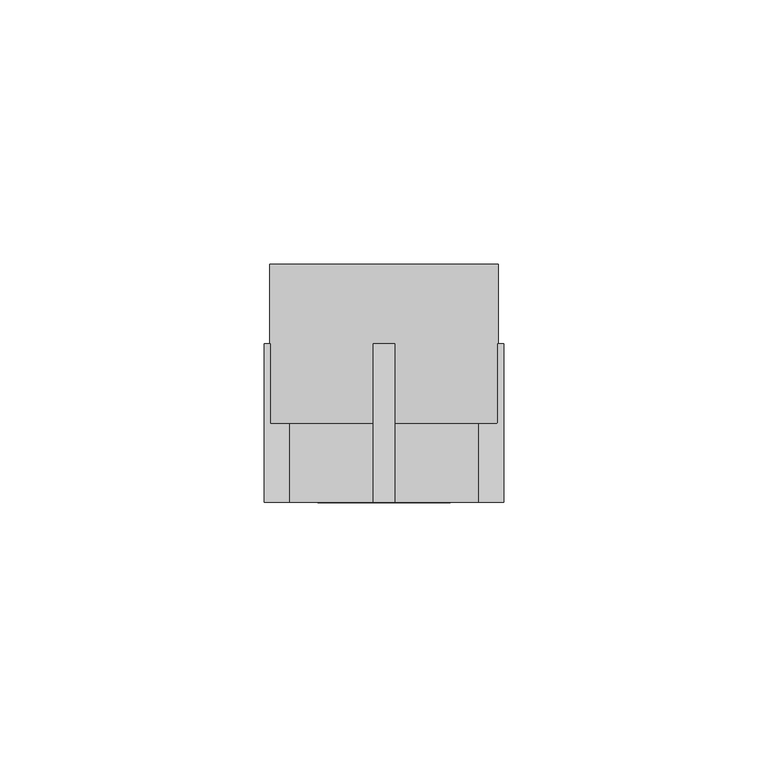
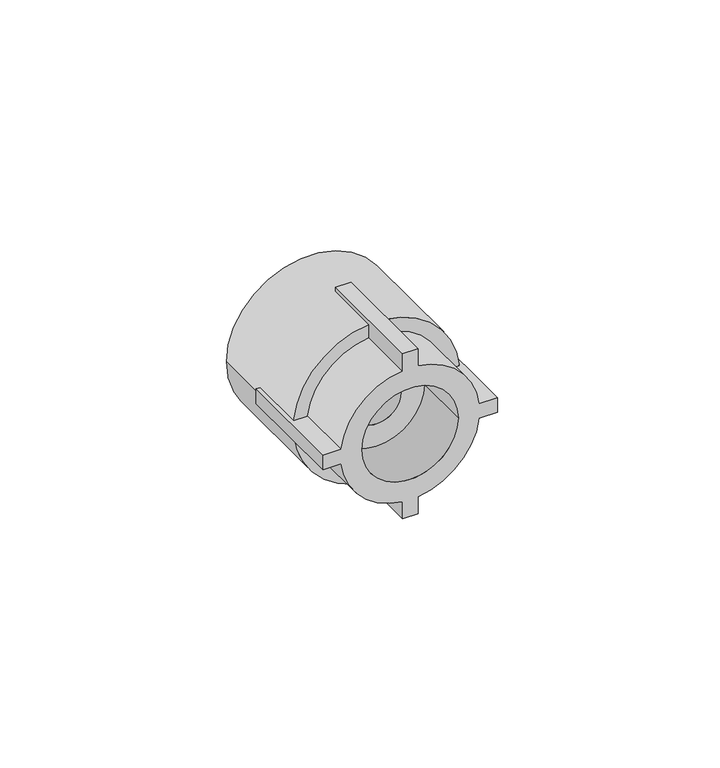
"""IFC4 building model written with IfcOpenShell, lengths in millimetres: pipe fitting geometry, EGB_VASEN_ PPR_Entronque rosca hembra WXR102 : Entronque rosca hembra WXR102."""

from ifc_helpers import new_model, si_unit, point, frame, origin, origin_2d, place, context, project, spatial, polyline, circle_curve, trimmed, segment, composite_curve, outline, extrude, source, transform, mapped, element, save
from ifc_brep_helpers import plane_surface, cylinder_surface, revolved_surface, advanced_brep


def pipe_fitting_ec726afd(model_context):
    return source(origin(), model_context, "Body", "SolidModel", [
        advanced_brep(
        [(2.0, -15.0, 22.6), (-2.0, -15.0, 22.6), (-2.0, -15.0, 17.8885438), (-17.8885438, -15.0, 2.0), (-22.6, -15.0, 2.0), (-22.6, -15.0, -2.0), (-17.8885438, -15.0, -2.0), (-2.0, -15.0, -17.8885438), (-2.0, -15.0, -22.6), (2.0, -15.0, -22.6), (2.0, -15.0, -17.8885438), (17.8885438, -15.0, -2.0), (22.6, -15.0, -2.0), (22.6, -15.0, 2.0), (17.8885438, -15.0, 2.0), (2.0, -15.0, 17.8885438), (-12.5, -15.0, 0.0), (12.5, -15.0, 0.0), (-2.0, 15.0, 22.6), (2.0, 15.0, 22.6), (2.0, 15.0, 21.5072081), (-2.0, 15.0, 21.5072081), (2.0, 15.0, -22.6), (-2.0, 15.0, -22.6), (-2.0, 15.0, -21.5072081), (2.0, 15.0, -21.5072081), (22.6, 15.0, 2.0), (22.6, 15.0, -2.0), (21.5072081, 15.0, -2.0), (21.6, 15.0, 0.0), (21.5072081, 15.0, 2.0), (-22.6, 15.0, -2.0), (-22.6, 15.0, 2.0), (-21.5072081, 15.0, 2.0), (-21.6, 15.0, 0.0), (-21.5072081, 15.0, -2.0), (2.0, 0.0, 17.8885438), (2.0, 0.0, 21.5072081), (-2.0, 0.0, 21.5072081), (-2.0, 0.0, 17.8885438), (2.0, 0.0, -21.5072081), (2.0, 0.0, -17.8885438), (-2.0, 0.0, -17.8885438), (-2.0, 0.0, -21.5072081), (17.8885438, 0.0, -2.0), (21.5072081, 0.0, -2.0), (21.5072081, 0.0, 2.0), (17.8885438, 0.0, 2.0), (-21.5072081, 0.0, -2.0), (-17.8885438, 0.0, -2.0), (-17.8885438, 0.0, 2.0), (-21.5072081, 0.0, 2.0), (-12.5, 0.0, 0.0), (12.5, 0.0, 0.0), (-6.35, 0.0, 0.0), (6.35, 0.0, 0.0), (-21.6, 30.0, 0.0), (21.6, 30.0, 0.0), (-6.35, 30.0, 0.0), (6.35, 30.0, 0.0)],
        [
            (0, 1),
            (1, 2),
            (2, 3, circle_curve(frame((0.0, -15.0, 0.0), z_axis=(0.0, -1.0, 0.0), x_axis=(1.0, 0.0, 0.0)), 18.0)),
            (3, 4),
            (4, 5),
            (5, 6),
            (6, 7, circle_curve(frame((0.0, -15.0, 0.0), z_axis=(0.0, -1.0, 0.0), x_axis=(1.0, 0.0, 0.0)), 18.0)),
            (7, 8),
            (8, 9),
            (9, 10),
            (10, 11, circle_curve(frame((0.0, -15.0, 0.0), z_axis=(0.0, -1.0, 0.0), x_axis=(1.0, 0.0, 0.0)), 18.0)),
            (11, 12),
            (12, 13),
            (13, 14),
            (14, 15, circle_curve(frame((0.0, -15.0, 0.0), z_axis=(0.0, -1.0, 0.0), x_axis=(1.0, 0.0, 0.0)), 18.0)),
            (15, 0),
            (16, 17, circle_curve(frame((0.0, -15.0, 0.0), z_axis=(0.0, 1.0, 0.0), x_axis=(1.0, 0.0, 0.0)), 12.5)),
            (17, 16, circle_curve(frame((0.0, -15.0, 0.0), z_axis=(0.0, 1.0, 0.0), x_axis=(1.0, 0.0, 0.0)), 12.5)),
            (18, 19),
            (19, 20),
            (20, 21, circle_curve(frame((0.0, 15.0, 0.0), z_axis=(0.0, -1.0, 0.0), x_axis=(1.0, 0.0, 0.0)), 21.6)),
            (21, 18),
            (22, 23),
            (23, 24),
            (24, 25, circle_curve(frame((0.0, 15.0, 0.0), z_axis=(0.0, -1.0, 0.0), x_axis=(1.0, 0.0, 0.0)), 21.6)),
            (25, 22),
            (26, 27),
            (27, 28),
            (28, 29, circle_curve(frame((0.0, 15.0, 0.0), z_axis=(0.0, -1.0, 0.0), x_axis=(1.0, 0.0, 0.0)), 21.6)),
            (29, 30, circle_curve(frame((0.0, 15.0, 0.0), z_axis=(0.0, -1.0, 0.0), x_axis=(1.0, 0.0, 0.0)), 21.6)),
            (30, 26),
            (31, 32),
            (32, 33),
            (33, 34, circle_curve(frame((0.0, 15.0, 0.0), z_axis=(0.0, -1.0, 0.0), x_axis=(1.0, 0.0, 0.0)), 21.6)),
            (34, 35, circle_curve(frame((0.0, 15.0, 0.0), z_axis=(0.0, -1.0, 0.0), x_axis=(1.0, 0.0, 0.0)), 21.6)),
            (35, 31),
            (19, 0),
            (15, 36),
            (36, 37),
            (37, 20),
            (18, 1),
            (21, 38),
            (38, 39),
            (39, 2),
            (8, 23),
            (22, 9),
            (25, 40),
            (40, 41),
            (41, 10),
            (7, 42),
            (42, 43),
            (43, 24),
            (27, 12),
            (11, 44),
            (44, 45),
            (45, 28),
            (26, 13),
            (30, 46),
            (46, 47),
            (47, 14),
            (5, 31),
            (35, 48),
            (48, 49),
            (49, 6),
            (32, 4),
            (3, 50),
            (50, 51),
            (51, 33),
            (49, 42, circle_curve(frame((0.0, 0.0, 0.0), z_axis=(0.0, -1.0, 0.0), x_axis=(1.0, 0.0, 0.0)), 18.0)),
            (41, 44, circle_curve(frame((0.0, 0.0, 0.0), z_axis=(0.0, -1.0, 0.0), x_axis=(1.0, 0.0, 0.0)), 18.0)),
            (39, 50, circle_curve(frame((0.0, 0.0, 0.0), z_axis=(0.0, -1.0, 0.0), x_axis=(1.0, 0.0, 0.0)), 18.0)),
            (47, 36, circle_curve(frame((0.0, 0.0, 0.0), z_axis=(0.0, -1.0, 0.0), x_axis=(1.0, 0.0, 0.0)), 18.0)),
            (16, 52),
            (52, 53, circle_curve(frame((0.0, 0.0, 0.0), z_axis=(0.0, 1.0, 0.0), x_axis=(1.0, 0.0, 0.0)), 12.5)),
            (53, 17),
            (53, 52, circle_curve(frame((0.0, 0.0, 0.0), z_axis=(0.0, 1.0, 0.0), x_axis=(1.0, 0.0, 0.0)), 12.5)),
            (54, 55, circle_curve(frame((0.0, 0.0, 0.0), z_axis=(0.0, 1.0, 0.0), x_axis=(1.0, 0.0, 0.0)), 6.35)),
            (55, 54, circle_curve(frame((0.0, 0.0, 0.0), z_axis=(0.0, 1.0, 0.0), x_axis=(1.0, 0.0, 0.0)), 6.35)),
            (40, 45, circle_curve(frame((0.0, 0.0, 0.0), z_axis=(0.0, -1.0, 0.0), x_axis=(1.0, 0.0, 0.0)), 21.6)),
            (48, 43, circle_curve(frame((0.0, 0.0, 0.0), z_axis=(0.0, -1.0, 0.0), x_axis=(1.0, 0.0, 0.0)), 21.6)),
            (46, 37, circle_curve(frame((0.0, 0.0, 0.0), z_axis=(0.0, -1.0, 0.0), x_axis=(1.0, 0.0, 0.0)), 21.6)),
            (38, 51, circle_curve(frame((0.0, 0.0, 0.0), z_axis=(0.0, -1.0, 0.0), x_axis=(1.0, 0.0, 0.0)), 21.6)),
            (56, 57, circle_curve(frame((0.0, 30.0, 0.0), z_axis=(0.0, 1.0, 0.0), x_axis=(1.0, 0.0, 0.0)), 21.6)),
            (57, 56, circle_curve(frame((0.0, 30.0, 0.0), z_axis=(0.0, 1.0, 0.0), x_axis=(1.0, 0.0, 0.0)), 21.6)),
            (58, 59, circle_curve(frame((0.0, 30.0, 0.0), z_axis=(0.0, -1.0, 0.0), x_axis=(1.0, 0.0, 0.0)), 6.35)),
            (59, 58, circle_curve(frame((0.0, 30.0, 0.0), z_axis=(0.0, -1.0, 0.0), x_axis=(1.0, 0.0, 0.0)), 6.35)),
            (57, 29),
            (34, 56),
            (54, 58),
            (59, 55),
        ],
        [
            plane_surface(frame((0.0, -15.0, 0.0), z_axis=(0.0, -1.0, 0.0), x_axis=(0.0, 0.0, 1.0))),
            plane_surface(frame((0.0, 15.0, 0.0), z_axis=(0.0, 1.0, 0.0), x_axis=(0.0, 0.0, 1.0))),
            plane_surface(frame((2.0, -15.0, 17.0), z_axis=(1.0, 0.0, 0.0), x_axis=(0.0, 1.0, 0.0))),
            plane_surface(frame((2.0, -15.0, 22.6), z_axis=(0.0, 0.0, 1.0), x_axis=(0.0, 1.0, 0.0))),
            plane_surface(frame((-2.0, -15.0, 22.6), z_axis=(-1.0, 0.0, 0.0), x_axis=(0.0, 1.0, 0.0))),
            plane_surface(frame((-2.0, -15.0, -22.6), z_axis=(0.0, 0.0, -1.0), x_axis=(0.0, 1.0, 0.0))),
            plane_surface(frame((2.0, -15.0, -22.6), z_axis=(1.0, 0.0, 0.0), x_axis=(0.0, 1.0, 0.0))),
            plane_surface(frame((-2.0, -15.0, -17.0), z_axis=(-1.0, 0.0, 0.0), x_axis=(0.0, 1.0, 0.0))),
            plane_surface(frame((17.0, -15.0, -2.0), z_axis=(0.0, 0.0, -1.0), x_axis=(0.0, 1.0, 0.0))),
            plane_surface(frame((22.6, -15.0, -2.0), z_axis=(1.0, 0.0, 0.0), x_axis=(0.0, 1.0, 0.0))),
            plane_surface(frame((22.6, -15.0, 2.0), z_axis=(0.0, 0.0, 1.0), x_axis=(0.0, 1.0, 0.0))),
            plane_surface(frame((-22.6, -15.0, -2.0), z_axis=(0.0, 0.0, -1.0), x_axis=(0.0, 1.0, 0.0))),
            plane_surface(frame((-17.0, -15.0, 2.0), z_axis=(0.0, 0.0, 1.0), x_axis=(0.0, 1.0, 0.0))),
            plane_surface(frame((-22.6, -15.0, 2.0), z_axis=(-1.0, 0.0, 0.0), x_axis=(0.0, 1.0, 0.0))),
            cylinder_surface(frame((0.0, 0.0, 0.0), z_axis=(0.0, -1.0, 0.0), x_axis=(1.0, 0.0, 0.0)), 18.0),
            revolved_surface(polyline([(12.5, 0.0, 0.0), (12.5, -15.0, 0.0)]), (0.0, 0.0, 0.0), (0.0, 1.0, 0.0)),
            plane_surface(frame((21.6, 0.0, 0.0), z_axis=(0.0, -1.0, 0.0), x_axis=(0.0, 0.0, 1.0))),
            plane_surface(frame((21.6, 30.0, 0.0), z_axis=(0.0, 1.0, 0.0), x_axis=(0.0, 0.0, -1.0))),
            cylinder_surface(frame((0.0, 30.0, 0.0), z_axis=(0.0, -1.0, 0.0), x_axis=(1.0, 0.0, 0.0)), 21.6),
            revolved_surface(polyline([(6.35, 30.0, 0.0), (6.35, 0.0, 0.0)]), (0.0, 0.0, 0.0), (0.0, 1.0, 0.0)),
        ],
        [
            (0, [[1, 2, 3, 4, 5, 6, 7, 8, 9, 10, 11, 12, 13, 14, 15, 16], [17, 18]]),
            (1, [[19, 20, 21, 22]]),
            (1, [[23, 24, 25, 26]]),
            (1, [[27, 28, 29, 30, 31]]),
            (1, [[32, 33, 34, 35, 36]]),
            (2, [[37, -16, 38, 39, 40, -20]]),
            (3, [[-1, -37, -19, 41]]),
            (4, [[-41, -22, 42, 43, 44, -2]]),
            (5, [[-9, 45, -23, 46]]),
            (6, [[-46, -26, 47, 48, 49, -10]]),
            (7, [[-45, -8, 50, 51, 52, -24]]),
            (8, [[53, -12, 54, 55, 56, -28]]),
            (9, [[-13, -53, -27, 57]]),
            (10, [[-57, -31, 58, 59, 60, -14]]),
            (11, [[61, -36, 62, 63, 64, -6]]),
            (12, [[65, -4, 66, 67, 68, -33]]),
            (13, [[-5, -65, -32, -61]]),
            (14, [[-7, -64, 69, -50]]),
            (14, [[-11, -49, 70, -54]]),
            (14, [[-3, -44, 71, -66]]),
            (14, [[-15, -60, 72, -38]]),
            (15, [[-17, 73, 74, 75]]),
            (15, [[-18, -75, 76, -73]]),
            (16, [[-74, -76], [77, 78]]),
            (16, [[79, -55, -70, -48]]),
            (16, [[80, -51, -69, -63]]),
            (16, [[81, -39, -72, -59]]),
            (16, [[82, -67, -71, -43]]),
            (17, [[83, 84], [85, 86]]),
            (18, [[-84, 87, -29, -56, -79, -47, -25, -52, -80, -62, -35, 88]]),
            (18, [[-83, -88, -34, -68, -82, -42, -21, -40, -81, -58, -30, -87]]),
            (19, [[-77, 89, -86, 90]]),
            (19, [[-78, -90, -85, -89]]),
        ],
    ),
        extrude(outline(composite_curve([segment(trimmed(circle_curve(origin_2d(), 6.35), [point((0.0, -6.35))], [point((0.0, 6.35))], False, "CARTESIAN"), True, "CONTINUOUS"), segment(trimmed(circle_curve(origin_2d(), 6.35), [point((0.0, 6.35))], [point((0.0, -6.35))], False, "CARTESIAN"), True, "CONTINUOUS")], self_intersect=False)), frame((0.0, 15.0, 0.0), z_axis=(0.0, 1.0, 0.0), x_axis=(0.0, 0.0, 1.0)), (0.0, 0.0, 1.0), 15.0),
    ])


if __name__ == "__main__":
    model = new_model("IFC4")
    model_context = context("Model", 3, world=origin())
    ifc_project = project(units=[si_unit("LENGTHUNIT", "METRE", prefix="MILLI")], contexts=[model_context])
    site = spatial("IfcSite", under=ifc_project)
    building = spatial("IfcBuilding", under=site)
    placement = place(None, origin())
    pipe_fitting_shape = pipe_fitting_ec726afd(model_context)
    element("IfcPipeFitting", 1, ObjectType="EGB_VASEN_ PPR_Entronque rosca hembra WXR102 : Entronque rosca hembra WXR102", at=placement, inside=building, context=model_context, shape_type="MappedRepresentation", body=[
        mapped(pipe_fitting_shape, transform((0.0, 0.0, 0.0), x_axis=(1.0, 0.0, 0.0), y_axis=(0.0, 1.0, 0.0), z_axis=(0.0, 0.0, 1.0))),
    ])
    save(model, "model.ifc")
